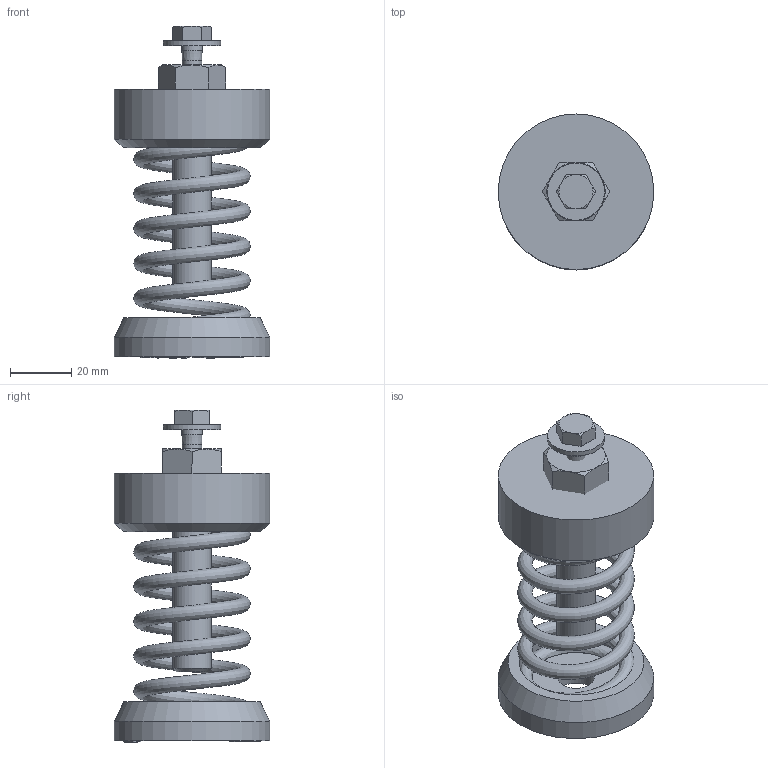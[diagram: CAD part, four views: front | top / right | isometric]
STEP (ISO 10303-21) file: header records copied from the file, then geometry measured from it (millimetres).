
FILE_DESCRIPTION(/* description */ (''),/* implementation_level */ '2;1');
FILE_NAME(/* name */ '\\Mleuckthor2\cad-proe_solids\WEBSITE FILES 05.22.13\STEP\SLFX\SLF-X-210.stp',/* time_stamp */ '2016-02-29T10:08:42-05:00',/* author */ ('rramoutar'),/* organization */ ('Mason Industries Inc.'),/* preprocessor_version */ 'ST-DEVELOPER v15.6',/* originating_system */ 'Autodesk Inventor 2015',/* authorisation */ '');
FILE_SCHEMA (('CONFIG_CONTROL_DESIGN'));
Length unit declared in the file: inch
Products named in the file (1): SLF-X-210
Bounding box: 50.8 x 50.8 x 108.37 mm (x, y, z)
Volume: 71178 mm3; surface area: 35231.5 mm2
Topology: 8 solids, 8 shells, 316 faces, 772 edges, 500 vertices
Faces by surface type: plane 189, bspline 75, cone 32, cylinder 18, torus 2
Full cylindrical faces by diameter (mm): 4.978 x1, 6.35 x1, 6.604 x1, 7.137 x1, 11.125 x1, 11.328 x1, 11.906 x1, 12.7 x1, 14.287 x2, 18.644 x1, 19.05 x1, 37.306 x2, 41.275 x2, 50.8 x2
Entity records: 11352 total; most frequent: CARTESIAN_POINT 4271, ORIENTED_EDGE 1478, DIRECTION 1101, EDGE_CURVE 739, VERTEX_POINT 495, LINE 457, VECTOR 457, EDGE_LOOP 382
